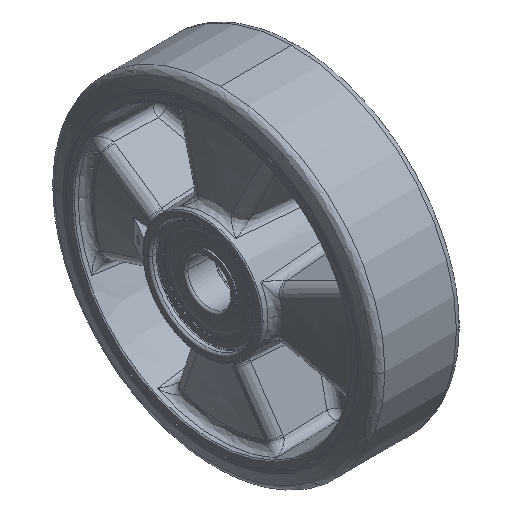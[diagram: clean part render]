
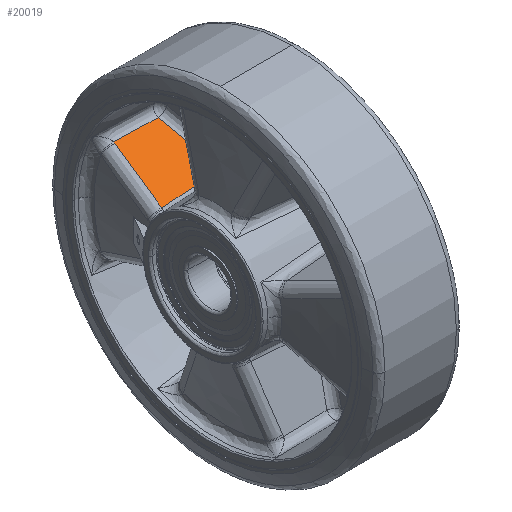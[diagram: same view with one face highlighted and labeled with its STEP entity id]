
A CAD part, isometric view. The second image highlights one B-rep face of the part: STEP entity #20019.
In plain terms, the highlighted planar face has unit normal (-0.087, -0.381, 0.92).
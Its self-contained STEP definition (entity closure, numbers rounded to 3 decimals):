
#5018 = CARTESIAN_POINT ( 'NONE',  ( 8.296, 52.847, 24.034 ) ) ;
#19221 = VERTEX_POINT ( 'NONE', #5018 ) ;
#20016 = EDGE_CURVE ( 'NONE', #19221, #20521, #45330, .T. ) ;
#20019 = ADVANCED_FACE ( 'NONE', ( #45329 ), #45328, .F. ) ;
#20021 = EDGE_LOOP ( 'NONE', ( #20023, #20031, #20036, #20041, #20043 ) ) ;
#20023 = ORIENTED_EDGE ( 'NONE', *, *, #20025, .F. ) ;
#20025 = EDGE_CURVE ( 'NONE', #20027, #20029, #45303, .T. ) ;
#20027 = VERTEX_POINT ( 'NONE', #45304 ) ;
#20029 = VERTEX_POINT ( 'NONE', #45302 ) ;
#20031 = ORIENTED_EDGE ( 'NONE', *, *, #20033, .F. ) ;
#20033 = EDGE_CURVE ( 'NONE', #20034, #20027, #45436, .T. ) ;
#20034 = VERTEX_POINT ( 'NONE', #45435 ) ;
#20036 = ORIENTED_EDGE ( 'NONE', *, *, #20038, .F. ) ;
#20038 = EDGE_CURVE ( 'NONE', #20521, #20034, #45434, .T. ) ;
#20041 = ORIENTED_EDGE ( 'NONE', *, *, #20016, .F. ) ;
#20043 = ORIENTED_EDGE ( 'NONE', *, *, #20045, .T. ) ;
#20045 = EDGE_CURVE ( 'NONE', #19221, #20029, #45420, .T. ) ;
#20521 = VERTEX_POINT ( 'NONE', #28315 ) ;
#28315 = CARTESIAN_POINT ( 'NONE',  ( 11.987, 28.209, 14.178 ) ) ;
#45298 = CARTESIAN_POINT ( 'NONE',  ( -10.453, 53.907, 22.698 ) ) ;
#45299 = CARTESIAN_POINT ( 'NONE',  ( -10.461, 53.849, 22.673 ) ) ;
#45300 = CARTESIAN_POINT ( 'NONE',  ( -10.465, 53.821, 22.661 ) ) ;
#45301 = CARTESIAN_POINT ( 'NONE',  ( -10.468, 53.806, 22.655 ) ) ;
#45302 = CARTESIAN_POINT ( 'NONE',  ( -10.398, 54.5, 22.949 ) ) ;
#45303 = B_SPLINE_CURVE_WITH_KNOTS ( 'NONE', 3,
 ( #45301, #45300, #45299, #45298, #45443, #45442, #45441, #45440, #45439, #45438, #45437 ),
 .UNSPECIFIED., .F., .F.,
 ( 4, 1, 1, 1, 1, 1, 1, 1, 4 ),
 ( 0., 0.063, 0.125, 0.25, 0.5, 0.75, 0.875, 0.937, 1. ),
 .UNSPECIFIED. ) ;
#45304 = CARTESIAN_POINT ( 'NONE',  ( -10.468, 53.806, 22.655 ) ) ;
#45305 = DIRECTION ( 'NONE',  ( 0., 0.924, 0.383 ) ) ;
#45306 = DIRECTION ( 'NONE',  ( 0.087, 0.381, -0.92 ) ) ;
#45307 = CARTESIAN_POINT ( 'NONE',  ( -27.896, 15.754, 5.242 ) ) ;
#45308 = AXIS2_PLACEMENT_3D ( 'NONE', #45307, #45306, #45305 ) ;
#45309 = CARTESIAN_POINT ( 'NONE',  ( 11.987, 28.209, 14.178 ) ) ;
#45310 = CARTESIAN_POINT ( 'NONE',  ( 10.767, 36.421, 17.464 ) ) ;
#45311 = CARTESIAN_POINT ( 'NONE',  ( 9.532, 44.634, 20.749 ) ) ;
#45312 = CARTESIAN_POINT ( 'NONE',  ( 8.296, 52.847, 24.034 ) ) ;
#45328 = PLANE ( 'NONE',  #45308 ) ;
#45329 = FACE_OUTER_BOUND ( 'NONE', #20021, .T. ) ;
#45330 = B_SPLINE_CURVE_WITH_KNOTS ( 'NONE', 3,
 ( #45312, #45311, #45310, #45309 ),
 .UNSPECIFIED., .F., .F.,
 ( 4, 4 ),
 ( 0., 1. ),
 .UNSPECIFIED. ) ;
#45384 = CARTESIAN_POINT ( 'NONE',  ( -10.398, 54.5, 22.949 ) ) ;
#45385 = CARTESIAN_POINT ( 'NONE',  ( -4.107, 53.952, 23.317 ) ) ;
#45386 = CARTESIAN_POINT ( 'NONE',  ( 2.124, 53.4, 23.679 ) ) ;
#45387 = CARTESIAN_POINT ( 'NONE',  ( 8.296, 52.847, 24.034 ) ) ;
#45420 = B_SPLINE_CURVE_WITH_KNOTS ( 'NONE', 3,
 ( #45387, #45386, #45385, #45384 ),
 .UNSPECIFIED., .F., .F.,
 ( 4, 4 ),
 ( 0., 1. ),
 .UNSPECIFIED. ) ;
#45421 = CARTESIAN_POINT ( 'NONE',  ( -14.305, 28.547, 11.829 ) ) ;
#45422 = CARTESIAN_POINT ( 'NONE',  ( -5.541, 28.459, 12.622 ) ) ;
#45423 = CARTESIAN_POINT ( 'NONE',  ( 3.223, 28.345, 13.405 ) ) ;
#45424 = CARTESIAN_POINT ( 'NONE',  ( 11.987, 28.209, 14.178 ) ) ;
#45425 = CARTESIAN_POINT ( 'NONE',  ( -10.468, 53.806, 22.655 ) ) ;
#45426 = CARTESIAN_POINT ( 'NONE',  ( -10.628, 52.754, 22.203 ) ) ;
#45427 = CARTESIAN_POINT ( 'NONE',  ( -10.949, 50.649, 21.301 ) ) ;
#45428 = CARTESIAN_POINT ( 'NONE',  ( -11.59, 46.439, 19.497 ) ) ;
#45429 = CARTESIAN_POINT ( 'NONE',  ( -12.39, 41.177, 17.241 ) ) ;
#45430 = CARTESIAN_POINT ( 'NONE',  ( -13.189, 35.915, 14.986 ) ) ;
#45431 = CARTESIAN_POINT ( 'NONE',  ( -13.827, 31.705, 13.182 ) ) ;
#45432 = CARTESIAN_POINT ( 'NONE',  ( -14.146, 29.6, 12.28 ) ) ;
#45433 = CARTESIAN_POINT ( 'NONE',  ( -14.305, 28.547, 11.829 ) ) ;
#45434 = B_SPLINE_CURVE_WITH_KNOTS ( 'NONE', 3,
 ( #45424, #45423, #45422, #45421 ),
 .UNSPECIFIED., .F., .F.,
 ( 4, 4 ),
 ( 0., 1. ),
 .UNSPECIFIED. ) ;
#45435 = CARTESIAN_POINT ( 'NONE',  ( -14.305, 28.547, 11.829 ) ) ;
#45436 = B_SPLINE_CURVE_WITH_KNOTS ( 'NONE', 3,
 ( #45433, #45432, #45431, #45430, #45429, #45428, #45427, #45426, #45425 ),
 .UNSPECIFIED., .F., .F.,
 ( 4, 1, 1, 1, 1, 1, 4 ),
 ( 0., 0.125, 0.25, 0.5, 0.75, 0.875, 1. ),
 .UNSPECIFIED. ) ;
#45437 = CARTESIAN_POINT ( 'NONE',  ( -10.398, 54.5, 22.949 ) ) ;
#45438 = CARTESIAN_POINT ( 'NONE',  ( -10.399, 54.486, 22.943 ) ) ;
#45439 = CARTESIAN_POINT ( 'NONE',  ( -10.4, 54.457, 22.93 ) ) ;
#45440 = CARTESIAN_POINT ( 'NONE',  ( -10.404, 54.399, 22.906 ) ) ;
#45441 = CARTESIAN_POINT ( 'NONE',  ( -10.41, 54.297, 22.863 ) ) ;
#45442 = CARTESIAN_POINT ( 'NONE',  ( -10.423, 54.152, 22.802 ) ) ;
#45443 = CARTESIAN_POINT ( 'NONE',  ( -10.44, 54.008, 22.741 ) ) ;
